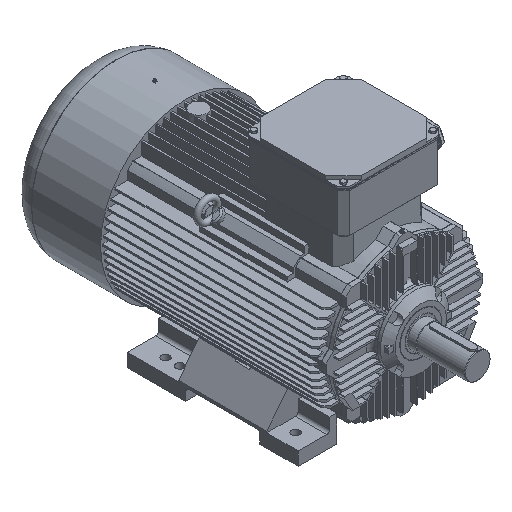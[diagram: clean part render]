
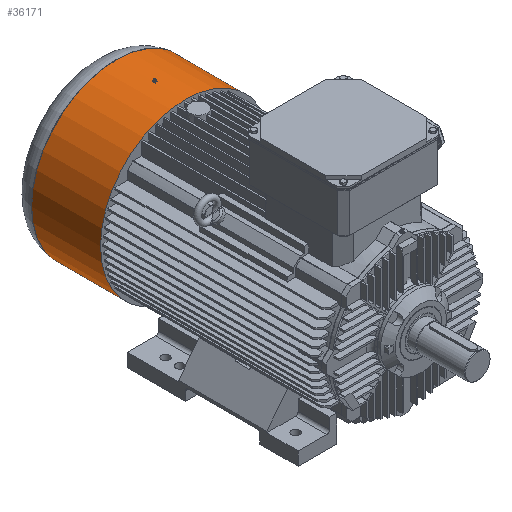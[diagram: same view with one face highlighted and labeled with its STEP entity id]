
A CAD part, isometric view. The second image highlights one B-rep face of the part: STEP entity #36171.
In plain terms, the highlighted cylindrical face has radius 298 mm (diameter 596 mm), a full revolution.
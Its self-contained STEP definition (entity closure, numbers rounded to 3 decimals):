
#778=CYLINDRICAL_SURFACE('',#38033,298.);
#1286=CIRCLE('',#38032,298.);
#1287=CIRCLE('',#38034,298.);
#5211=ORIENTED_EDGE('',*,*,#11326,.T.);
#5212=ORIENTED_EDGE('',*,*,#11325,.F.);
#11325=EDGE_CURVE('',#14635,#14635,#1286,.T.);
#11326=EDGE_CURVE('',#14636,#14636,#1287,.T.);
#14635=VERTEX_POINT('',#50576);
#14636=VERTEX_POINT('',#50579);
#21644=EDGE_LOOP('',(#5211));
#21645=EDGE_LOOP('',(#5212));
#23324=FACE_BOUND('',#21644,.T.);
#23325=FACE_BOUND('',#21645,.T.);
#36171=ADVANCED_FACE('',(#23324,#23325),#778,.T.);
#38032=AXIS2_PLACEMENT_3D('',#50575,#42657,#42658);
#38033=AXIS2_PLACEMENT_3D('',#50577,#42659,#42660);
#38034=AXIS2_PLACEMENT_3D('',#50578,#42661,#42662);
#42657=DIRECTION('',(0.,-1.,0.));
#42658=DIRECTION('',(0.,0.,1.));
#42659=DIRECTION('',(0.,-1.,0.));
#42660=DIRECTION('',(0.,0.,1.));
#42661=DIRECTION('',(0.,-1.,0.));
#42662=DIRECTION('',(1.,0.,0.));
#50575=CARTESIAN_POINT('',(0.,752.12,0.));
#50576=CARTESIAN_POINT('',(0.,752.12,298.));
#50577=CARTESIAN_POINT('',(0.,752.12,0.));
#50578=CARTESIAN_POINT('',(0.,995.,0.));
#50579=CARTESIAN_POINT('',(298.,995.,0.));
